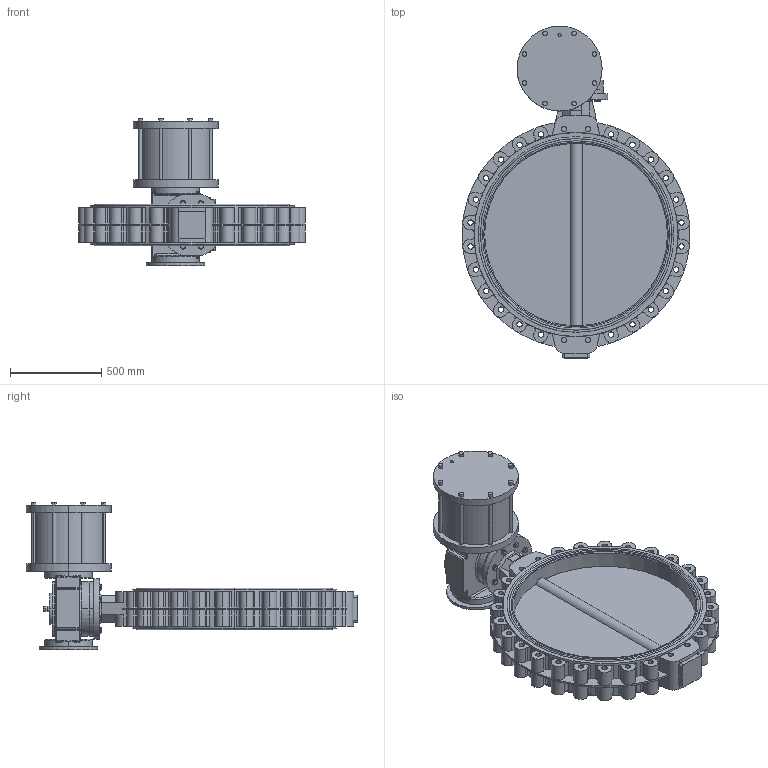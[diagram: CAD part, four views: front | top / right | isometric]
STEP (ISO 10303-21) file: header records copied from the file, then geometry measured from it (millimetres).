
FILE_DESCRIPTION (( 'STEP AP214' ), '1' );
FILE_NAME ('67731.step', '2020-10-26T07:15:48', ( '' ), ( '' ), 'SwSTEP 2.0', 'SolidWorks 2019', '' );
FILE_SCHEMA (( 'AUTOMOTIVE_DESIGN' ));
Length unit declared in the file: millimetre
Products named in the file (7): U-Scheibe DIN 125 A_M16; TL20-1000_M01; SY01F25-400 DA; 67731; Flanschadapter F16-F25; Passfeder DIN 6885 A_20_12x100; 6kt-Schr DIN 933_M16x80
Assembly tree (20 placements, depth 2):
  67731
    TL20-1000_M01
    SY01F25-400 DA
    6kt-Schr DIN 933_M16x80  x8
    U-Scheibe DIN 125 A_M16  x8
    Passfeder DIN 6885 A_20_12x100
    Flanschadapter F16-F25
Bounding box: 1245.56 x 1814.5 x 804 mm (x, y, z)
Volume: 173203055.3 mm3; surface area: 6935300 mm2
Topology: 20 solids, 20 shells, 1322 faces, 3329 edges, 2076 vertices
Faces by surface type: cylinder 587, plane 503, cone 95, bspline 83, torus 54
Entity records: 40883 total; most frequent: CARTESIAN_POINT 11581, DIRECTION 6084, ORIENTED_EDGE 5630, EDGE_CURVE 2815, AXIS2_PLACEMENT_3D 2440, VERTEX_POINT 1796, CIRCLE 1409, EDGE_LOOP 1243
